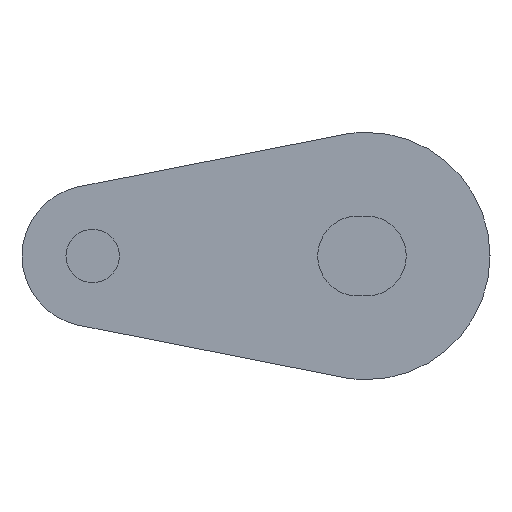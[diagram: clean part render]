
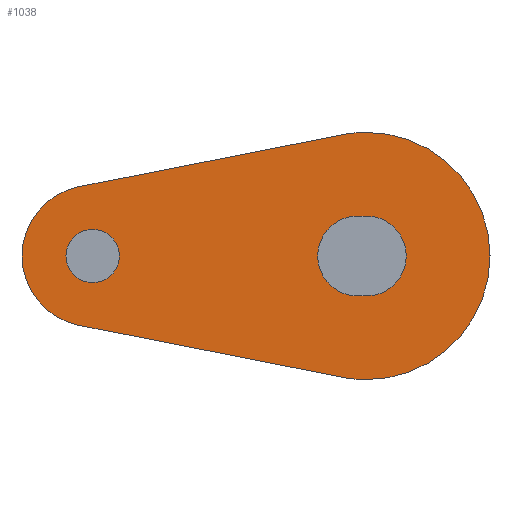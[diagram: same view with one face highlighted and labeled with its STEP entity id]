
A CAD part, left-side view. The second image highlights one B-rep face of the part: STEP entity #1038.
In plain terms, the highlighted planar face has unit normal (-1, 0, 0).
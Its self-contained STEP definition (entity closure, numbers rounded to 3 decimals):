
#11 = EDGE_CURVE ( 'NONE', #395, #206, #872, .T. ) ;
#12 = EDGE_CURVE ( 'NONE', #181, #219, #871, .T. ) ;
#13 = AXIS2_PLACEMENT_3D ( 'NONE', #422, #425, #426 ) ;
#19 = AXIS2_PLACEMENT_3D ( 'NONE', #500, #471, #391 ) ;
#29 = AXIS2_PLACEMENT_3D ( 'NONE', #559, #503, #406 ) ;
#41 = AXIS2_PLACEMENT_3D ( 'NONE', #346, #551, #517 ) ;
#46 = EDGE_CURVE ( 'NONE', #180, #312, #885, .T. ) ;
#72 = AXIS2_PLACEMENT_3D ( 'NONE', #518, #410, #409 ) ;
#87 = EDGE_CURVE ( 'NONE', #175, #177, #922, .T. ) ;
#88 = AXIS2_PLACEMENT_3D ( 'NONE', #432, #344, #362 ) ;
#105 = EDGE_CURVE ( 'NONE', #177, #181, #935, .T. ) ;
#110 = EDGE_CURVE ( 'NONE', #185, #395, #944, .T. ) ;
#111 = AXIS2_PLACEMENT_3D ( 'NONE', #218, #317, #186 ) ;
#112 = EDGE_CURVE ( 'NONE', #206, #399, #946, .T. ) ;
#120 = EDGE_CURVE ( 'NONE', #187, #183, #956, .T. ) ;
#121 = EDGE_CURVE ( 'NONE', #312, #185, #957, .T. ) ;
#126 = EDGE_CURVE ( 'NONE', #399, #180, #961, .T. ) ;
#133 = EDGE_CURVE ( 'NONE', #219, #175, #969, .T. ) ;
#146 = AXIS2_PLACEMENT_3D ( 'NONE', #488, #324, #333 ) ;
#157 = EDGE_CURVE ( 'NONE', #183, #187, #826, .T. ) ;
#158 = AXIS2_PLACEMENT_3D ( 'NONE', #380, #228, #232 ) ;
#173 = CARTESIAN_POINT ( 'NONE',  ( -101.5, 16.274, 3.924 ) ) ;
#175 = VERTEX_POINT ( 'NONE', #326 ) ;
#177 = VERTEX_POINT ( 'NONE', #392 ) ;
#180 = VERTEX_POINT ( 'NONE', #514 ) ;
#181 = VERTEX_POINT ( 'NONE', #342 ) ;
#183 = VERTEX_POINT ( 'NONE', #441 ) ;
#185 = VERTEX_POINT ( 'NONE', #365 ) ;
#186 = DIRECTION ( 'NONE',  ( 0., 0., -1. ) ) ;
#187 = VERTEX_POINT ( 'NONE', #357 ) ;
#191 = CARTESIAN_POINT ( 'NONE',  ( -101.5, 0.5, 2.26 ) ) ;
#193 = CARTESIAN_POINT ( 'NONE',  ( -101.5, 0., 2.26 ) ) ;
#206 = VERTEX_POINT ( 'NONE', #374 ) ;
#218 = CARTESIAN_POINT ( 'NONE',  ( -101.5, 0., 0. ) ) ;
#219 = VERTEX_POINT ( 'NONE', #193 ) ;
#228 = DIRECTION ( 'NONE',  ( 1., 0., 0. ) ) ;
#232 = DIRECTION ( 'NONE',  ( 0., 0., -1. ) ) ;
#271 = DIRECTION ( 'NONE',  ( 0., -0.981, 0.194 ) ) ;
#312 = VERTEX_POINT ( 'NONE', #595 ) ;
#317 = DIRECTION ( 'NONE',  ( 1., 0., 0. ) ) ;
#324 = DIRECTION ( 'NONE',  ( -1., 0., 0. ) ) ;
#326 = CARTESIAN_POINT ( 'NONE',  ( -101.5, 0., -2.26 ) ) ;
#328 = PLANE ( 'NONE',  #146 ) ;
#333 = DIRECTION ( 'NONE',  ( 0., 0., -1. ) ) ;
#342 = CARTESIAN_POINT ( 'NONE',  ( -101.5, 0.5, 2.26 ) ) ;
#344 = DIRECTION ( 'NONE',  ( 1., 0., 0. ) ) ;
#346 = CARTESIAN_POINT ( 'NONE',  ( -101.5, 15.5, 0. ) ) ;
#357 = CARTESIAN_POINT ( 'NONE',  ( -101.5, 15.5, -1.51 ) ) ;
#362 = DIRECTION ( 'NONE',  ( 0., 0., -1. ) ) ;
#365 = CARTESIAN_POINT ( 'NONE',  ( -101.5, 0., 7. ) ) ;
#374 = CARTESIAN_POINT ( 'NONE',  ( -101.5, 1.355, -6.868 ) ) ;
#379 = CARTESIAN_POINT ( 'NONE',  ( -101.5, 16.274, -3.924 ) ) ;
#380 = CARTESIAN_POINT ( 'NONE',  ( -101.5, 15.5, 0. ) ) ;
#391 = DIRECTION ( 'NONE',  ( 0., 0., -1. ) ) ;
#392 = CARTESIAN_POINT ( 'NONE',  ( -101.5, 0.5, -2.26 ) ) ;
#395 = VERTEX_POINT ( 'NONE', #594 ) ;
#399 = VERTEX_POINT ( 'NONE', #379 ) ;
#406 = DIRECTION ( 'NONE',  ( 0., 0., -1. ) ) ;
#409 = DIRECTION ( 'NONE',  ( 0., 0., -1. ) ) ;
#410 = DIRECTION ( 'NONE',  ( 1., 0., 0. ) ) ;
#411 = DIRECTION ( 'NONE',  ( 0., 1., 0. ) ) ;
#422 = CARTESIAN_POINT ( 'NONE',  ( -101.5, 0.5, 0. ) ) ;
#425 = DIRECTION ( 'NONE',  ( 1., 0., 0. ) ) ;
#426 = DIRECTION ( 'NONE',  ( 0., 0., -1. ) ) ;
#427 = CARTESIAN_POINT ( 'NONE',  ( -101.5, 1.355, -6.868 ) ) ;
#432 = CARTESIAN_POINT ( 'NONE',  ( -101.5, 0., 0. ) ) ;
#441 = CARTESIAN_POINT ( 'NONE',  ( -101.5, 15.5, 1.51 ) ) ;
#449 = CARTESIAN_POINT ( 'NONE',  ( -101.5, 0.5, -2.26 ) ) ;
#468 = DIRECTION ( 'NONE',  ( 0., -1., 0. ) ) ;
#470 = DIRECTION ( 'NONE',  ( 0., 0.981, 0.194 ) ) ;
#471 = DIRECTION ( 'NONE',  ( 1., 0., 0. ) ) ;
#488 = CARTESIAN_POINT ( 'NONE',  ( -101.5, 15.5, 0. ) ) ;
#500 = CARTESIAN_POINT ( 'NONE',  ( -101.5, 0., 0. ) ) ;
#503 = DIRECTION ( 'NONE',  ( 1., 0., 0. ) ) ;
#514 = CARTESIAN_POINT ( 'NONE',  ( -101.5, 16.274, 3.924 ) ) ;
#517 = DIRECTION ( 'NONE',  ( 0., 0., -1. ) ) ;
#518 = CARTESIAN_POINT ( 'NONE',  ( -101.5, 0., 0. ) ) ;
#551 = DIRECTION ( 'NONE',  ( 1., 0., 0. ) ) ;
#559 = CARTESIAN_POINT ( 'NONE',  ( -101.5, 15.5, 0. ) ) ;
#594 = CARTESIAN_POINT ( 'NONE',  ( -101.5, 0., -7. ) ) ;
#595 = CARTESIAN_POINT ( 'NONE',  ( -101.5, 1.355, 6.868 ) ) ;
#665 = EDGE_LOOP ( 'NONE', ( #716, #718 ) ) ;
#669 = EDGE_LOOP ( 'NONE', ( #723, #722, #720, #719 ) ) ;
#681 = EDGE_LOOP ( 'NONE', ( #717, #715, #714, #713, #712, #711 ) ) ;
#688 = VECTOR ( 'NONE', #468, 1000. ) ;
#711 = ORIENTED_EDGE ( 'NONE', *, *, #46, .F. ) ;
#712 = ORIENTED_EDGE ( 'NONE', *, *, #121, .F. ) ;
#713 = ORIENTED_EDGE ( 'NONE', *, *, #110, .F. ) ;
#714 = ORIENTED_EDGE ( 'NONE', *, *, #11, .F. ) ;
#715 = ORIENTED_EDGE ( 'NONE', *, *, #112, .F. ) ;
#716 = ORIENTED_EDGE ( 'NONE', *, *, #120, .T. ) ;
#717 = ORIENTED_EDGE ( 'NONE', *, *, #126, .F. ) ;
#718 = ORIENTED_EDGE ( 'NONE', *, *, #157, .T. ) ;
#719 = ORIENTED_EDGE ( 'NONE', *, *, #87, .T. ) ;
#720 = ORIENTED_EDGE ( 'NONE', *, *, #133, .T. ) ;
#722 = ORIENTED_EDGE ( 'NONE', *, *, #12, .T. ) ;
#723 = ORIENTED_EDGE ( 'NONE', *, *, #105, .T. ) ;
#826 = CIRCLE ( 'NONE', #158, 1.51 ) ;
#871 = LINE ( 'NONE', #191, #688 ) ;
#872 = CIRCLE ( 'NONE', #111, 7. ) ;
#885 = LINE ( 'NONE', #173, #893 ) ;
#893 = VECTOR ( 'NONE', #271, 1000. ) ;
#916 = VECTOR ( 'NONE', #411, 1000. ) ;
#922 = LINE ( 'NONE', #449, #916 ) ;
#931 = VECTOR ( 'NONE', #470, 1000. ) ;
#935 = CIRCLE ( 'NONE', #13, 2.26 ) ;
#944 = CIRCLE ( 'NONE', #88, 7. ) ;
#946 = LINE ( 'NONE', #427, #931 ) ;
#956 = CIRCLE ( 'NONE', #41, 1.51 ) ;
#957 = CIRCLE ( 'NONE', #72, 7. ) ;
#961 = CIRCLE ( 'NONE', #29, 4. ) ;
#969 = CIRCLE ( 'NONE', #19, 2.26 ) ;
#1009 = FACE_OUTER_BOUND ( 'NONE', #681, .T. ) ;
#1017 = FACE_BOUND ( 'NONE', #665, .T. ) ;
#1022 = FACE_BOUND ( 'NONE', #669, .T. ) ;
#1038 = ADVANCED_FACE ( 'NONE', ( #1022, #1017, #1009 ), #328, .T. ) ;
